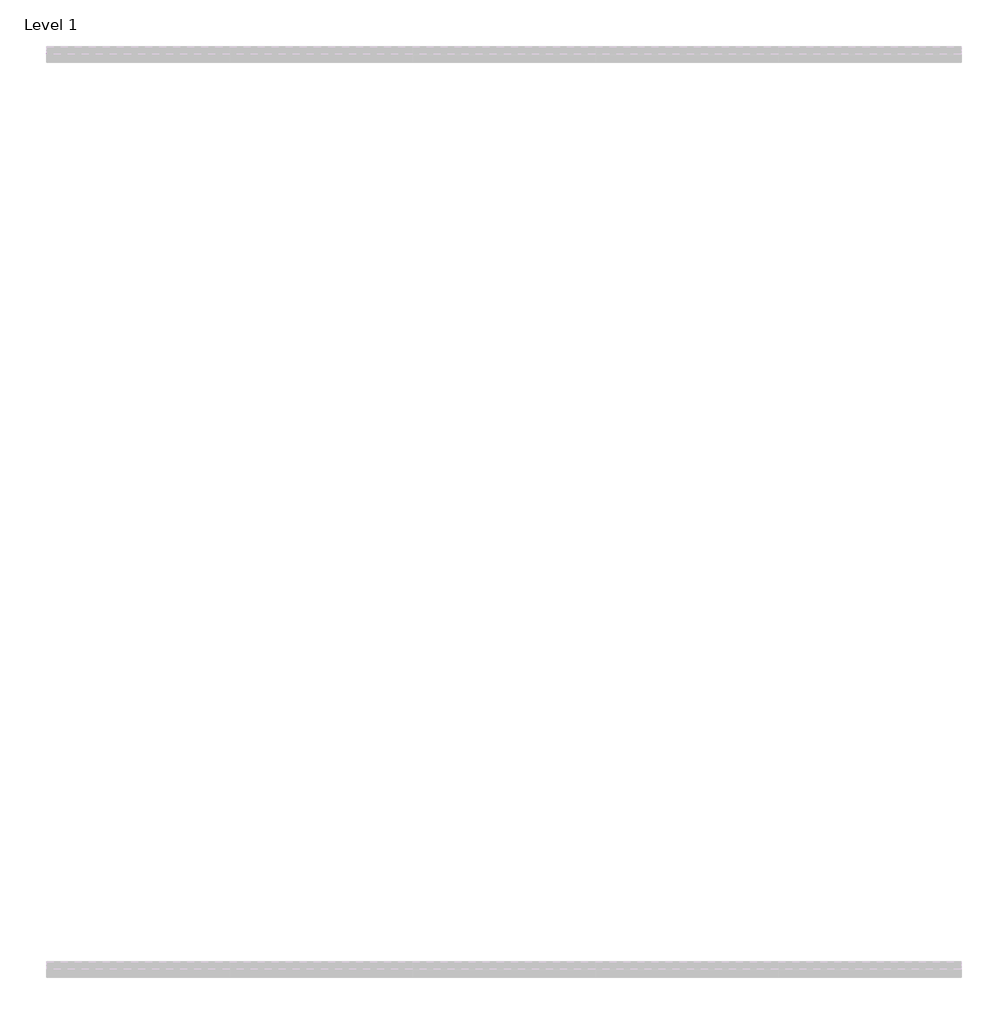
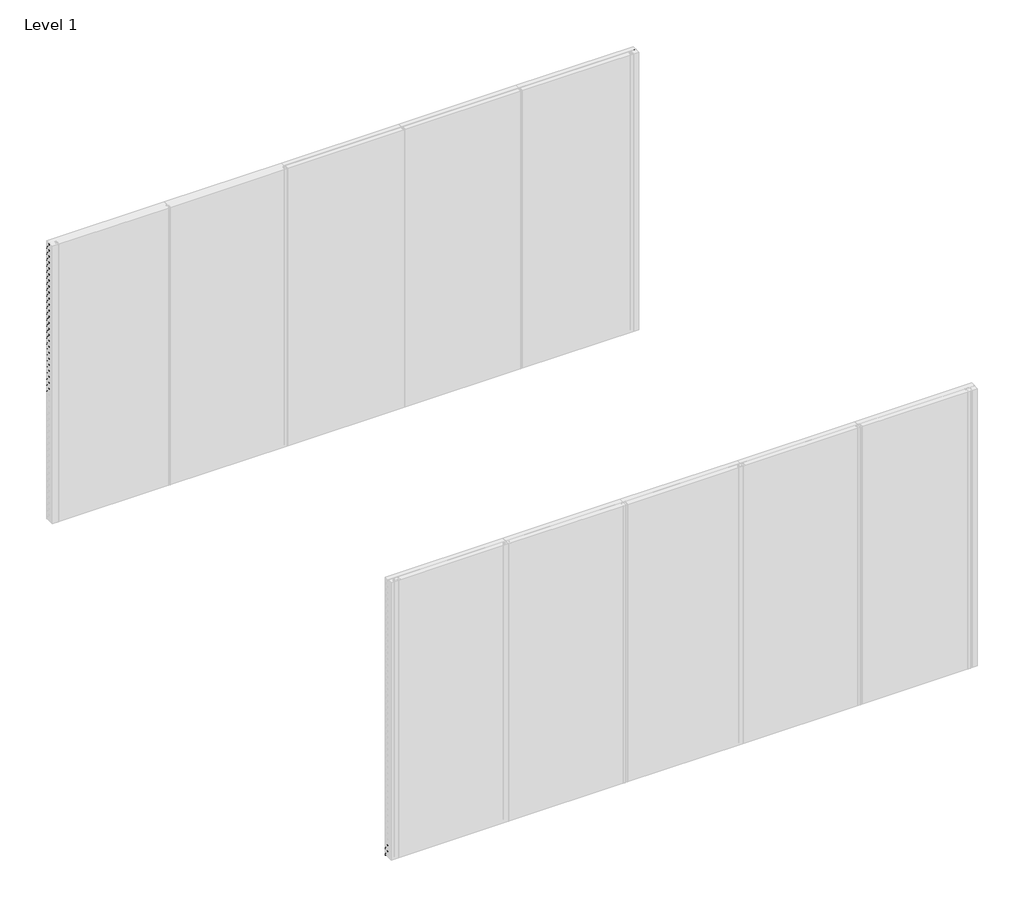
# One storey, part 3 of 7: 27 proxies.
"""IFC4 building model written with IfcOpenShell, lengths in millimetres."""

from ifc_helpers import new_model, si_unit, point, frame, frame_2d, origin, place, context, project, spatial, polyline, circle_curve, trimmed, segment, composite_curve, outline, extrude, element, save

model = new_model("IFC4")

# Units and contexts
model_context = context("Model", 3, world=origin())
ifc_project = project(units=[si_unit("LENGTHUNIT", "METRE", prefix="MILLI")], contexts=[model_context])

# Site, building, storey
site = spatial("IfcSite", under=ifc_project)
building = spatial("IfcBuilding", under=site)
storey = spatial("IfcBuildingStorey", under=building, Name="Level 1", Elevation=0.0)

# Proxies
placement = place(None, origin())
element("IfcBuildingElementProxy", 1, Name="Wall Sweeps", at=placement, inside=storey, context=model_context, shape_type="SweptSolid", body=[
    extrude(outline(composite_curve([segment(polyline([(-7992.5, 2976.0025181), (-7992.5, 2983.9509429), (-7994.5, 2983.9509429), (-7994.5, 2981.5421319), (-7996.0, 2981.5421319), (-7996.0, 2988.6499999), (-7994.5, 2988.6499999), (-7994.5, 2985.4509429), (-7992.5, 2985.4509429), (-7992.5, 2988.7999999), (-7992.1784609, 2990.0), (-7987.7000054, 2990.0), (-7987.7000054, 2986.8499997), (-7989.0835735, 2988.4999997), (-7991.0, 2988.4999997), (-7991.0, 2976.6085574), (-7946.0, 2930.0096933), (-7946.0, 2914.0), (-7947.5, 2916.6798), (-7947.5, 2919.1208496), (-7948.5, 2919.1208496), (-7948.5, 2920.6208496), (-7947.5, 2920.6208496), (-7947.5, 2929.4036539), (-7961.2088107, 2943.599543), (-7963.4375599, 2941.3707939), (-7962.8739549, 2940.8071888)]), True, "CONTINUOUS"), segment(trimmed(circle_curve(frame_2d((-7963.2275083, 2940.4536354)), 0.5), [point((-7962.8739549, 2940.8071888))], [point((-7963.3569178, 2939.9706725))], False, "CARTESIAN"), True, "CONTINUOUS"), segment(polyline([(-7963.3569178, 2939.9706725), (-7966.1977917, 2940.7318824), (-7962.250957, 2944.6787171), (-7992.5, 2976.0025181)]), True, "CONTINUOUS")], self_intersect=False)), frame((0.0, 0.0, 0.0), z_axis=(1.0, 0.0, 0.0), x_axis=(0.0, 1.0, 0.0)), (0.0, 0.0, 1.0), 6000.0),
])
element("IfcBuildingElementProxy", 2, Name="Wall Sweeps", at=placement, inside=storey, context=model_context, shape_type="SweptSolid", body=[
    extrude(outline(composite_curve([segment(polyline([(-7992.5, 2911.0025181), (-7992.5, 2918.9509429), (-7994.5, 2918.9509429), (-7994.5, 2916.5421319), (-7996.0, 2916.5421319), (-7996.0, 2923.6499999), (-7994.5, 2923.6499999), (-7994.5, 2920.4509429), (-7992.5, 2920.4509429), (-7992.5, 2923.7999999), (-7992.1784609, 2925.0), (-7987.7000054, 2925.0), (-7987.7000054, 2921.8499997), (-7989.0835735, 2923.4999997), (-7991.0, 2923.4999997), (-7991.0, 2911.6085574), (-7946.0, 2865.0096933), (-7946.0, 2849.0), (-7947.5, 2851.6798), (-7947.5, 2854.1208496), (-7948.5, 2854.1208496), (-7948.5, 2855.6208496), (-7947.5, 2855.6208496), (-7947.5, 2864.4036539), (-7961.2088107, 2878.599543), (-7963.4375599, 2876.3707939), (-7962.8739549, 2875.8071888)]), True, "CONTINUOUS"), segment(trimmed(circle_curve(frame_2d((-7963.2275083, 2875.4536354)), 0.5), [point((-7962.8739549, 2875.8071888))], [point((-7963.3569178, 2874.9706725))], False, "CARTESIAN"), True, "CONTINUOUS"), segment(polyline([(-7963.3569178, 2874.9706725), (-7966.1977917, 2875.7318824), (-7962.250957, 2879.6787171), (-7992.5, 2911.0025181)]), True, "CONTINUOUS")], self_intersect=False)), frame((0.0, 0.0, 0.0), z_axis=(1.0, 0.0, 0.0), x_axis=(0.0, 1.0, 0.0)), (0.0, 0.0, 1.0), 6000.0),
])
element("IfcBuildingElementProxy", 3, Name="Wall Sweeps", at=placement, inside=storey, context=model_context, shape_type="SweptSolid", body=[
    extrude(outline(composite_curve([segment(polyline([(-7992.5, 2846.0025181), (-7992.5, 2853.9509429), (-7994.5, 2853.9509429), (-7994.5, 2851.5421319), (-7996.0, 2851.5421319), (-7996.0, 2858.6499999), (-7994.5, 2858.6499999), (-7994.5, 2855.4509429), (-7992.5, 2855.4509429), (-7992.5, 2858.7999999), (-7992.1784609, 2860.0), (-7987.7000054, 2860.0), (-7987.7000054, 2856.8499997), (-7989.0835735, 2858.4999997), (-7991.0, 2858.4999997), (-7991.0, 2846.6085574), (-7946.0, 2800.0096933), (-7946.0, 2784.0), (-7947.5, 2786.6798), (-7947.5, 2789.1208496), (-7948.5, 2789.1208496), (-7948.5, 2790.6208496), (-7947.5, 2790.6208496), (-7947.5, 2799.4036539), (-7961.2088107, 2813.599543), (-7963.4375599, 2811.3707939), (-7962.8739549, 2810.8071888)]), True, "CONTINUOUS"), segment(trimmed(circle_curve(frame_2d((-7963.2275083, 2810.4536354)), 0.5), [point((-7962.8739549, 2810.8071888))], [point((-7963.3569178, 2809.9706725))], False, "CARTESIAN"), True, "CONTINUOUS"), segment(polyline([(-7963.3569178, 2809.9706725), (-7966.1977917, 2810.7318824), (-7962.250957, 2814.6787171), (-7992.5, 2846.0025181)]), True, "CONTINUOUS")], self_intersect=False)), frame((0.0, 0.0, 0.0), z_axis=(1.0, 0.0, 0.0), x_axis=(0.0, 1.0, 0.0)), (0.0, 0.0, 1.0), 6000.0),
])
element("IfcBuildingElementProxy", 4, Name="Wall Sweeps", at=placement, inside=storey, context=model_context, shape_type="SweptSolid", body=[
    extrude(outline(composite_curve([segment(polyline([(-7992.5, 2781.0025181), (-7992.5, 2788.9509429), (-7994.5, 2788.9509429), (-7994.5, 2786.5421319), (-7996.0, 2786.5421319), (-7996.0, 2793.6499999), (-7994.5, 2793.6499999), (-7994.5, 2790.4509429), (-7992.5, 2790.4509429), (-7992.5, 2793.7999999), (-7992.1784609, 2795.0), (-7987.7000054, 2795.0), (-7987.7000054, 2791.8499997), (-7989.0835735, 2793.4999997), (-7991.0, 2793.4999997), (-7991.0, 2781.6085574), (-7946.0, 2735.0096933), (-7946.0, 2719.0), (-7947.5, 2721.6798), (-7947.5, 2724.1208496), (-7948.5, 2724.1208496), (-7948.5, 2725.6208496), (-7947.5, 2725.6208496), (-7947.5, 2734.4036539), (-7961.2088107, 2748.599543), (-7963.4375599, 2746.3707939), (-7962.8739549, 2745.8071888)]), True, "CONTINUOUS"), segment(trimmed(circle_curve(frame_2d((-7963.2275083, 2745.4536354)), 0.5), [point((-7962.8739549, 2745.8071888))], [point((-7963.3569178, 2744.9706725))], False, "CARTESIAN"), True, "CONTINUOUS"), segment(polyline([(-7963.3569178, 2744.9706725), (-7966.1977917, 2745.7318824), (-7962.250957, 2749.6787171), (-7992.5, 2781.0025181)]), True, "CONTINUOUS")], self_intersect=False)), frame((0.0, 0.0, 0.0), z_axis=(1.0, 0.0, 0.0), x_axis=(0.0, 1.0, 0.0)), (0.0, 0.0, 1.0), 6000.0),
])
element("IfcBuildingElementProxy", 5, Name="Wall Sweeps", at=placement, inside=storey, context=model_context, shape_type="SweptSolid", body=[
    extrude(outline(composite_curve([segment(polyline([(-7992.5, 2716.0025181), (-7992.5, 2723.9509429), (-7994.5, 2723.9509429), (-7994.5, 2721.5421319), (-7996.0, 2721.5421319), (-7996.0, 2728.6499999), (-7994.5, 2728.6499999), (-7994.5, 2725.4509429), (-7992.5, 2725.4509429), (-7992.5, 2728.7999999), (-7992.1784609, 2730.0), (-7987.7000054, 2730.0), (-7987.7000054, 2726.8499997), (-7989.0835735, 2728.4999997), (-7991.0, 2728.4999997), (-7991.0, 2716.6085574), (-7946.0, 2670.0096933), (-7946.0, 2654.0), (-7947.5, 2656.6798), (-7947.5, 2659.1208496), (-7948.5, 2659.1208496), (-7948.5, 2660.6208496), (-7947.5, 2660.6208496), (-7947.5, 2669.4036539), (-7961.2088107, 2683.599543), (-7963.4375599, 2681.3707939), (-7962.8739549, 2680.8071888)]), True, "CONTINUOUS"), segment(trimmed(circle_curve(frame_2d((-7963.2275083, 2680.4536354)), 0.5), [point((-7962.8739549, 2680.8071888))], [point((-7963.3569178, 2679.9706725))], False, "CARTESIAN"), True, "CONTINUOUS"), segment(polyline([(-7963.3569178, 2679.9706725), (-7966.1977917, 2680.7318824), (-7962.250957, 2684.6787171), (-7992.5, 2716.0025181)]), True, "CONTINUOUS")], self_intersect=False)), frame((0.0, 0.0, 0.0), z_axis=(1.0, 0.0, 0.0), x_axis=(0.0, 1.0, 0.0)), (0.0, 0.0, 1.0), 6000.0),
])
element("IfcBuildingElementProxy", 6, Name="Wall Sweeps", at=placement, inside=storey, context=model_context, shape_type="SweptSolid", body=[
    extrude(outline(composite_curve([segment(polyline([(-7992.5, 2651.0025181), (-7992.5, 2658.9509429), (-7994.5, 2658.9509429), (-7994.5, 2656.5421319), (-7996.0, 2656.5421319), (-7996.0, 2663.6499999), (-7994.5, 2663.6499999), (-7994.5, 2660.4509429), (-7992.5, 2660.4509429), (-7992.5, 2663.7999999), (-7992.1784609, 2665.0), (-7987.7000054, 2665.0), (-7987.7000054, 2661.8499997), (-7989.0835735, 2663.4999997), (-7991.0, 2663.4999997), (-7991.0, 2651.6085574), (-7946.0, 2605.0096933), (-7946.0, 2589.0), (-7947.5, 2591.6798), (-7947.5, 2594.1208496), (-7948.5, 2594.1208496), (-7948.5, 2595.6208496), (-7947.5, 2595.6208496), (-7947.5, 2604.4036539), (-7961.2088107, 2618.599543), (-7963.4375599, 2616.3707939), (-7962.8739549, 2615.8071888)]), True, "CONTINUOUS"), segment(trimmed(circle_curve(frame_2d((-7963.2275083, 2615.4536354)), 0.5), [point((-7962.8739549, 2615.8071888))], [point((-7963.3569178, 2614.9706725))], False, "CARTESIAN"), True, "CONTINUOUS"), segment(polyline([(-7963.3569178, 2614.9706725), (-7966.1977917, 2615.7318824), (-7962.250957, 2619.6787171), (-7992.5, 2651.0025181)]), True, "CONTINUOUS")], self_intersect=False)), frame((0.0, 0.0, 0.0), z_axis=(1.0, 0.0, 0.0), x_axis=(0.0, 1.0, 0.0)), (0.0, 0.0, 1.0), 6000.0),
])
element("IfcBuildingElementProxy", 7, Name="Wall Sweeps", at=placement, inside=storey, context=model_context, shape_type="SweptSolid", body=[
    extrude(outline(composite_curve([segment(polyline([(-7992.5, 2586.0025181), (-7992.5, 2593.9509429), (-7994.5, 2593.9509429), (-7994.5, 2591.5421319), (-7996.0, 2591.5421319), (-7996.0, 2598.6499999), (-7994.5, 2598.6499999), (-7994.5, 2595.4509429), (-7992.5, 2595.4509429), (-7992.5, 2598.7999999), (-7992.1784609, 2600.0), (-7987.7000054, 2600.0), (-7987.7000054, 2596.8499997), (-7989.0835735, 2598.4999997), (-7991.0, 2598.4999997), (-7991.0, 2586.6085574), (-7946.0, 2540.0096933), (-7946.0, 2524.0), (-7947.5, 2526.6798), (-7947.5, 2529.1208496), (-7948.5, 2529.1208496), (-7948.5, 2530.6208496), (-7947.5, 2530.6208496), (-7947.5, 2539.4036539), (-7961.2088107, 2553.599543), (-7963.4375599, 2551.3707939), (-7962.8739549, 2550.8071888)]), True, "CONTINUOUS"), segment(trimmed(circle_curve(frame_2d((-7963.2275083, 2550.4536354)), 0.5), [point((-7962.8739549, 2550.8071888))], [point((-7963.3569178, 2549.9706725))], False, "CARTESIAN"), True, "CONTINUOUS"), segment(polyline([(-7963.3569178, 2549.9706725), (-7966.1977917, 2550.7318824), (-7962.250957, 2554.6787171), (-7992.5, 2586.0025181)]), True, "CONTINUOUS")], self_intersect=False)), frame((0.0, 0.0, 0.0), z_axis=(1.0, 0.0, 0.0), x_axis=(0.0, 1.0, 0.0)), (0.0, 0.0, 1.0), 6000.0),
])
element("IfcBuildingElementProxy", 8, Name="Wall Sweeps", at=placement, inside=storey, context=model_context, shape_type="SweptSolid", body=[
    extrude(outline(composite_curve([segment(polyline([(-7992.5, 2521.0025181), (-7992.5, 2528.9509429), (-7994.5, 2528.9509429), (-7994.5, 2526.5421319), (-7996.0, 2526.5421319), (-7996.0, 2533.6499999), (-7994.5, 2533.6499999), (-7994.5, 2530.4509429), (-7992.5, 2530.4509429), (-7992.5, 2533.7999999), (-7992.1784609, 2535.0), (-7987.7000054, 2535.0), (-7987.7000054, 2531.8499997), (-7989.0835735, 2533.4999997), (-7991.0, 2533.4999997), (-7991.0, 2521.6085574), (-7946.0, 2475.0096933), (-7946.0, 2459.0), (-7947.5, 2461.6798), (-7947.5, 2464.1208496), (-7948.5, 2464.1208496), (-7948.5, 2465.6208496), (-7947.5, 2465.6208496), (-7947.5, 2474.4036539), (-7961.2088107, 2488.599543), (-7963.4375599, 2486.3707939), (-7962.8739549, 2485.8071888)]), True, "CONTINUOUS"), segment(trimmed(circle_curve(frame_2d((-7963.2275083, 2485.4536354)), 0.5), [point((-7962.8739549, 2485.8071888))], [point((-7963.3569178, 2484.9706725))], False, "CARTESIAN"), True, "CONTINUOUS"), segment(polyline([(-7963.3569178, 2484.9706725), (-7966.1977917, 2485.7318824), (-7962.250957, 2489.6787171), (-7992.5, 2521.0025181)]), True, "CONTINUOUS")], self_intersect=False)), frame((0.0, 0.0, 0.0), z_axis=(1.0, 0.0, 0.0), x_axis=(0.0, 1.0, 0.0)), (0.0, 0.0, 1.0), 6000.0),
])
element("IfcBuildingElementProxy", 9, Name="Wall Sweeps", at=placement, inside=storey, context=model_context, shape_type="SweptSolid", body=[
    extrude(outline(composite_curve([segment(polyline([(-7992.5, 2456.0025181), (-7992.5, 2463.9509429), (-7994.5, 2463.9509429), (-7994.5, 2461.5421319), (-7996.0, 2461.5421319), (-7996.0, 2468.6499999), (-7994.5, 2468.6499999), (-7994.5, 2465.4509429), (-7992.5, 2465.4509429), (-7992.5, 2468.7999999), (-7992.1784609, 2470.0), (-7987.7000054, 2470.0), (-7987.7000054, 2466.8499997), (-7989.0835735, 2468.4999997), (-7991.0, 2468.4999997), (-7991.0, 2456.6085574), (-7946.0, 2410.0096933), (-7946.0, 2394.0), (-7947.5, 2396.6798), (-7947.5, 2399.1208496), (-7948.5, 2399.1208496), (-7948.5, 2400.6208496), (-7947.5, 2400.6208496), (-7947.5, 2409.4036539), (-7961.2088107, 2423.599543), (-7963.4375599, 2421.3707939), (-7962.8739549, 2420.8071888)]), True, "CONTINUOUS"), segment(trimmed(circle_curve(frame_2d((-7963.2275083, 2420.4536354)), 0.5), [point((-7962.8739549, 2420.8071888))], [point((-7963.3569178, 2419.9706725))], False, "CARTESIAN"), True, "CONTINUOUS"), segment(polyline([(-7963.3569178, 2419.9706725), (-7966.1977917, 2420.7318824), (-7962.250957, 2424.6787171), (-7992.5, 2456.0025181)]), True, "CONTINUOUS")], self_intersect=False)), frame((0.0, 0.0, 0.0), z_axis=(1.0, 0.0, 0.0), x_axis=(0.0, 1.0, 0.0)), (0.0, 0.0, 1.0), 6000.0),
])
element("IfcBuildingElementProxy", 10, Name="Wall Sweeps", at=placement, inside=storey, context=model_context, shape_type="SweptSolid", body=[
    extrude(outline(composite_curve([segment(polyline([(-7992.5, 2391.0025181), (-7992.5, 2398.9509429), (-7994.5, 2398.9509429), (-7994.5, 2396.5421319), (-7996.0, 2396.5421319), (-7996.0, 2403.6499999), (-7994.5, 2403.6499999), (-7994.5, 2400.4509429), (-7992.5, 2400.4509429), (-7992.5, 2403.7999999), (-7992.1784609, 2405.0), (-7987.7000054, 2405.0), (-7987.7000054, 2401.8499997), (-7989.0835735, 2403.4999997), (-7991.0, 2403.4999997), (-7991.0, 2391.6085574), (-7946.0, 2345.0096933), (-7946.0, 2329.0), (-7947.5, 2331.6798), (-7947.5, 2334.1208496), (-7948.5, 2334.1208496), (-7948.5, 2335.6208496), (-7947.5, 2335.6208496), (-7947.5, 2344.4036539), (-7961.2088107, 2358.599543), (-7963.4375599, 2356.3707939), (-7962.8739549, 2355.8071888)]), True, "CONTINUOUS"), segment(trimmed(circle_curve(frame_2d((-7963.2275083, 2355.4536354)), 0.5), [point((-7962.8739549, 2355.8071888))], [point((-7963.3569178, 2354.9706725))], False, "CARTESIAN"), True, "CONTINUOUS"), segment(polyline([(-7963.3569178, 2354.9706725), (-7966.1977917, 2355.7318824), (-7962.250957, 2359.6787171), (-7992.5, 2391.0025181)]), True, "CONTINUOUS")], self_intersect=False)), frame((0.0, 0.0, 0.0), z_axis=(1.0, 0.0, 0.0), x_axis=(0.0, 1.0, 0.0)), (0.0, 0.0, 1.0), 6000.0),
])
element("IfcBuildingElementProxy", 11, Name="Wall Sweeps", at=placement, inside=storey, context=model_context, shape_type="SweptSolid", body=[
    extrude(outline(composite_curve([segment(polyline([(-7992.5, 2326.0025181), (-7992.5, 2333.9509429), (-7994.5, 2333.9509429), (-7994.5, 2331.5421319), (-7996.0, 2331.5421319), (-7996.0, 2338.6499999), (-7994.5, 2338.6499999), (-7994.5, 2335.4509429), (-7992.5, 2335.4509429), (-7992.5, 2338.7999999), (-7992.1784609, 2340.0), (-7987.7000054, 2340.0), (-7987.7000054, 2336.8499997), (-7989.0835735, 2338.4999997), (-7991.0, 2338.4999997), (-7991.0, 2326.6085574), (-7946.0, 2280.0096933), (-7946.0, 2264.0), (-7947.5, 2266.6798), (-7947.5, 2269.1208496), (-7948.5, 2269.1208496), (-7948.5, 2270.6208496), (-7947.5, 2270.6208496), (-7947.5, 2279.4036539), (-7961.2088107, 2293.599543), (-7963.4375599, 2291.3707939), (-7962.8739549, 2290.8071888)]), True, "CONTINUOUS"), segment(trimmed(circle_curve(frame_2d((-7963.2275083, 2290.4536354)), 0.5), [point((-7962.8739549, 2290.8071888))], [point((-7963.3569178, 2289.9706725))], False, "CARTESIAN"), True, "CONTINUOUS"), segment(polyline([(-7963.3569178, 2289.9706725), (-7966.1977917, 2290.7318824), (-7962.250957, 2294.6787171), (-7992.5, 2326.0025181)]), True, "CONTINUOUS")], self_intersect=False)), frame((0.0, 0.0, 0.0), z_axis=(1.0, 0.0, 0.0), x_axis=(0.0, 1.0, 0.0)), (0.0, 0.0, 1.0), 6000.0),
])
element("IfcBuildingElementProxy", 12, Name="Wall Sweeps", at=placement, inside=storey, context=model_context, shape_type="SweptSolid", body=[
    extrude(outline(composite_curve([segment(polyline([(-7992.5, 2261.0025181), (-7992.5, 2268.9509429), (-7994.5, 2268.9509429), (-7994.5, 2266.5421319), (-7996.0, 2266.5421319), (-7996.0, 2273.6499999), (-7994.5, 2273.6499999), (-7994.5, 2270.4509429), (-7992.5, 2270.4509429), (-7992.5, 2273.7999999), (-7992.1784609, 2275.0), (-7987.7000054, 2275.0), (-7987.7000054, 2271.8499997), (-7989.0835735, 2273.4999997), (-7991.0, 2273.4999997), (-7991.0, 2261.6085574), (-7946.0, 2215.0096933), (-7946.0, 2199.0), (-7947.5, 2201.6798), (-7947.5, 2204.1208496), (-7948.5, 2204.1208496), (-7948.5, 2205.6208496), (-7947.5, 2205.6208496), (-7947.5, 2214.4036539), (-7961.2088107, 2228.599543), (-7963.4375599, 2226.3707939), (-7962.8739549, 2225.8071888)]), True, "CONTINUOUS"), segment(trimmed(circle_curve(frame_2d((-7963.2275083, 2225.4536354)), 0.5), [point((-7962.8739549, 2225.8071888))], [point((-7963.3569178, 2224.9706725))], False, "CARTESIAN"), True, "CONTINUOUS"), segment(polyline([(-7963.3569178, 2224.9706725), (-7966.1977917, 2225.7318824), (-7962.250957, 2229.6787171), (-7992.5, 2261.0025181)]), True, "CONTINUOUS")], self_intersect=False)), frame((0.0, 0.0, 0.0), z_axis=(1.0, 0.0, 0.0), x_axis=(0.0, 1.0, 0.0)), (0.0, 0.0, 1.0), 6000.0),
])
element("IfcBuildingElementProxy", 13, Name="Wall Sweeps", at=placement, inside=storey, context=model_context, shape_type="SweptSolid", body=[
    extrude(outline(composite_curve([segment(polyline([(-7992.5, 2196.0025181), (-7992.5, 2203.9509429), (-7994.5, 2203.9509429), (-7994.5, 2201.5421319), (-7996.0, 2201.5421319), (-7996.0, 2208.6499999), (-7994.5, 2208.6499999), (-7994.5, 2205.4509429), (-7992.5, 2205.4509429), (-7992.5, 2208.7999999), (-7992.1784609, 2210.0), (-7987.7000054, 2210.0), (-7987.7000054, 2206.8499997), (-7989.0835735, 2208.4999997), (-7991.0, 2208.4999997), (-7991.0, 2196.6085574), (-7946.0, 2150.0096933), (-7946.0, 2134.0), (-7947.5, 2136.6798), (-7947.5, 2139.1208496), (-7948.5, 2139.1208496), (-7948.5, 2140.6208496), (-7947.5, 2140.6208496), (-7947.5, 2149.4036539), (-7961.2088107, 2163.599543), (-7963.4375599, 2161.3707939), (-7962.8739549, 2160.8071888)]), True, "CONTINUOUS"), segment(trimmed(circle_curve(frame_2d((-7963.2275083, 2160.4536354)), 0.5), [point((-7962.8739549, 2160.8071888))], [point((-7963.3569178, 2159.9706725))], False, "CARTESIAN"), True, "CONTINUOUS"), segment(polyline([(-7963.3569178, 2159.9706725), (-7966.1977917, 2160.7318824), (-7962.250957, 2164.6787171), (-7992.5, 2196.0025181)]), True, "CONTINUOUS")], self_intersect=False)), frame((0.0, 0.0, 0.0), z_axis=(1.0, 0.0, 0.0), x_axis=(0.0, 1.0, 0.0)), (0.0, 0.0, 1.0), 6000.0),
])
element("IfcBuildingElementProxy", 14, Name="Wall Sweeps", at=placement, inside=storey, context=model_context, shape_type="SweptSolid", body=[
    extrude(outline(composite_curve([segment(polyline([(-7992.5, 2131.0025181), (-7992.5, 2138.9509429), (-7994.5, 2138.9509429), (-7994.5, 2136.5421319), (-7996.0, 2136.5421319), (-7996.0, 2143.6499999), (-7994.5, 2143.6499999), (-7994.5, 2140.4509429), (-7992.5, 2140.4509429), (-7992.5, 2143.7999999), (-7992.1784609, 2145.0), (-7987.7000054, 2145.0), (-7987.7000054, 2141.8499997), (-7989.0835735, 2143.4999997), (-7991.0, 2143.4999997), (-7991.0, 2131.6085574), (-7946.0, 2085.0096933), (-7946.0, 2069.0), (-7947.5, 2071.6798), (-7947.5, 2074.1208496), (-7948.5, 2074.1208496), (-7948.5, 2075.6208496), (-7947.5, 2075.6208496), (-7947.5, 2084.4036539), (-7961.2088107, 2098.599543), (-7963.4375599, 2096.3707939), (-7962.8739549, 2095.8071888)]), True, "CONTINUOUS"), segment(trimmed(circle_curve(frame_2d((-7963.2275083, 2095.4536354)), 0.5), [point((-7962.8739549, 2095.8071888))], [point((-7963.3569178, 2094.9706725))], False, "CARTESIAN"), True, "CONTINUOUS"), segment(polyline([(-7963.3569178, 2094.9706725), (-7966.1977917, 2095.7318824), (-7962.250957, 2099.6787171), (-7992.5, 2131.0025181)]), True, "CONTINUOUS")], self_intersect=False)), frame((0.0, 0.0, 0.0), z_axis=(1.0, 0.0, 0.0), x_axis=(0.0, 1.0, 0.0)), (0.0, 0.0, 1.0), 6000.0),
])
element("IfcBuildingElementProxy", 15, Name="Wall Sweeps", at=placement, inside=storey, context=model_context, shape_type="SweptSolid", body=[
    extrude(outline(composite_curve([segment(polyline([(-7992.5, 2066.0025181), (-7992.5, 2073.9509429), (-7994.5, 2073.9509429), (-7994.5, 2071.5421319), (-7996.0, 2071.5421319), (-7996.0, 2078.6499999), (-7994.5, 2078.6499999), (-7994.5, 2075.4509429), (-7992.5, 2075.4509429), (-7992.5, 2078.7999999), (-7992.1784609, 2080.0), (-7987.7000054, 2080.0), (-7987.7000054, 2076.8499997), (-7989.0835735, 2078.4999997), (-7991.0, 2078.4999997), (-7991.0, 2066.6085574), (-7946.0, 2020.0096933), (-7946.0, 2004.0), (-7947.5, 2006.6798), (-7947.5, 2009.1208496), (-7948.5, 2009.1208496), (-7948.5, 2010.6208496), (-7947.5, 2010.6208496), (-7947.5, 2019.4036539), (-7961.2088107, 2033.599543), (-7963.4375599, 2031.3707939), (-7962.8739549, 2030.8071888)]), True, "CONTINUOUS"), segment(trimmed(circle_curve(frame_2d((-7963.2275083, 2030.4536354)), 0.5), [point((-7962.8739549, 2030.8071888))], [point((-7963.3569178, 2029.9706725))], False, "CARTESIAN"), True, "CONTINUOUS"), segment(polyline([(-7963.3569178, 2029.9706725), (-7966.1977917, 2030.7318824), (-7962.250957, 2034.6787171), (-7992.5, 2066.0025181)]), True, "CONTINUOUS")], self_intersect=False)), frame((0.0, 0.0, 0.0), z_axis=(1.0, 0.0, 0.0), x_axis=(0.0, 1.0, 0.0)), (0.0, 0.0, 1.0), 6000.0),
])
element("IfcBuildingElementProxy", 16, Name="Wall Sweeps", at=placement, inside=storey, context=model_context, shape_type="SweptSolid", body=[
    extrude(outline(composite_curve([segment(polyline([(-7992.5, 2001.0025181), (-7992.5, 2008.9509429), (-7994.5, 2008.9509429), (-7994.5, 2006.5421319), (-7996.0, 2006.5421319), (-7996.0, 2013.6499999), (-7994.5, 2013.6499999), (-7994.5, 2010.4509429), (-7992.5, 2010.4509429), (-7992.5, 2013.7999999), (-7992.1784609, 2015.0), (-7987.7000054, 2015.0), (-7987.7000054, 2011.8499997), (-7989.0835735, 2013.4999997), (-7991.0, 2013.4999997), (-7991.0, 2001.6085574), (-7946.0, 1955.0096933), (-7946.0, 1939.0), (-7947.5, 1941.6798), (-7947.5, 1944.1208496), (-7948.5, 1944.1208496), (-7948.5, 1945.6208496), (-7947.5, 1945.6208496), (-7947.5, 1954.4036539), (-7961.2088107, 1968.599543), (-7963.4375599, 1966.3707939), (-7962.8739549, 1965.8071888)]), True, "CONTINUOUS"), segment(trimmed(circle_curve(frame_2d((-7963.2275083, 1965.4536354)), 0.5), [point((-7962.8739549, 1965.8071888))], [point((-7963.3569178, 1964.9706725))], False, "CARTESIAN"), True, "CONTINUOUS"), segment(polyline([(-7963.3569178, 1964.9706725), (-7966.1977917, 1965.7318824), (-7962.250957, 1969.6787171), (-7992.5, 2001.0025181)]), True, "CONTINUOUS")], self_intersect=False)), frame((0.0, 0.0, 0.0), z_axis=(1.0, 0.0, 0.0), x_axis=(0.0, 1.0, 0.0)), (0.0, 0.0, 1.0), 6000.0),
])
element("IfcBuildingElementProxy", 17, Name="Wall Sweeps", at=placement, inside=storey, context=model_context, shape_type="SweptSolid", body=[
    extrude(outline(composite_curve([segment(polyline([(-7992.5, 1936.0025181), (-7992.5, 1943.9509429), (-7994.5, 1943.9509429), (-7994.5, 1941.5421319), (-7996.0, 1941.5421319), (-7996.0, 1948.6499999), (-7994.5, 1948.6499999), (-7994.5, 1945.4509429), (-7992.5, 1945.4509429), (-7992.5, 1948.7999999), (-7992.1784609, 1950.0), (-7987.7000054, 1950.0), (-7987.7000054, 1946.8499997), (-7989.0835735, 1948.4999997), (-7991.0, 1948.4999997), (-7991.0, 1936.6085574), (-7946.0, 1890.0096933), (-7946.0, 1874.0), (-7947.5, 1876.6798), (-7947.5, 1879.1208496), (-7948.5, 1879.1208496), (-7948.5, 1880.6208496), (-7947.5, 1880.6208496), (-7947.5, 1889.4036539), (-7961.2088107, 1903.599543), (-7963.4375599, 1901.3707939), (-7962.8739549, 1900.8071888)]), True, "CONTINUOUS"), segment(trimmed(circle_curve(frame_2d((-7963.2275083, 1900.4536354)), 0.5), [point((-7962.8739549, 1900.8071888))], [point((-7963.3569178, 1899.9706725))], False, "CARTESIAN"), True, "CONTINUOUS"), segment(polyline([(-7963.3569178, 1899.9706725), (-7966.1977917, 1900.7318824), (-7962.250957, 1904.6787171), (-7992.5, 1936.0025181)]), True, "CONTINUOUS")], self_intersect=False)), frame((0.0, 0.0, 0.0), z_axis=(1.0, 0.0, 0.0), x_axis=(0.0, 1.0, 0.0)), (0.0, 0.0, 1.0), 6000.0),
])
element("IfcBuildingElementProxy", 18, Name="Wall Sweeps", at=placement, inside=storey, context=model_context, shape_type="SweptSolid", body=[
    extrude(outline(composite_curve([segment(polyline([(-7992.5, 1871.0025181), (-7992.5, 1878.9509429), (-7994.5, 1878.9509429), (-7994.5, 1876.5421319), (-7996.0, 1876.5421319), (-7996.0, 1883.6499999), (-7994.5, 1883.6499999), (-7994.5, 1880.4509429), (-7992.5, 1880.4509429), (-7992.5, 1883.7999999), (-7992.1784609, 1885.0), (-7987.7000054, 1885.0), (-7987.7000054, 1881.8499997), (-7989.0835735, 1883.4999997), (-7991.0, 1883.4999997), (-7991.0, 1871.6085574), (-7946.0, 1825.0096933), (-7946.0, 1809.0), (-7947.5, 1811.6798), (-7947.5, 1814.1208496), (-7948.5, 1814.1208496), (-7948.5, 1815.6208496), (-7947.5, 1815.6208496), (-7947.5, 1824.4036539), (-7961.2088107, 1838.599543), (-7963.4375599, 1836.3707939), (-7962.8739549, 1835.8071888)]), True, "CONTINUOUS"), segment(trimmed(circle_curve(frame_2d((-7963.2275083, 1835.4536354)), 0.5), [point((-7962.8739549, 1835.8071888))], [point((-7963.3569178, 1834.9706725))], False, "CARTESIAN"), True, "CONTINUOUS"), segment(polyline([(-7963.3569178, 1834.9706725), (-7966.1977917, 1835.7318824), (-7962.250957, 1839.6787171), (-7992.5, 1871.0025181)]), True, "CONTINUOUS")], self_intersect=False)), frame((0.0, 0.0, 0.0), z_axis=(1.0, 0.0, 0.0), x_axis=(0.0, 1.0, 0.0)), (0.0, 0.0, 1.0), 6000.0),
])
element("IfcBuildingElementProxy", 19, Name="Wall Sweeps", at=placement, inside=storey, context=model_context, shape_type="SweptSolid", body=[
    extrude(outline(composite_curve([segment(polyline([(-7992.5, 1806.0025181), (-7992.5, 1813.9509429), (-7994.5, 1813.9509429), (-7994.5, 1811.5421319), (-7996.0, 1811.5421319), (-7996.0, 1818.6499999), (-7994.5, 1818.6499999), (-7994.5, 1815.4509429), (-7992.5, 1815.4509429), (-7992.5, 1818.7999999), (-7992.1784609, 1820.0), (-7987.7000054, 1820.0), (-7987.7000054, 1816.8499997), (-7989.0835735, 1818.4999997), (-7991.0, 1818.4999997), (-7991.0, 1806.6085574), (-7946.0, 1760.0096933), (-7946.0, 1744.0), (-7947.5, 1746.6798), (-7947.5, 1749.1208496), (-7948.5, 1749.1208496), (-7948.5, 1750.6208496), (-7947.5, 1750.6208496), (-7947.5, 1759.4036539), (-7961.2088107, 1773.599543), (-7963.4375599, 1771.3707939), (-7962.8739549, 1770.8071888)]), True, "CONTINUOUS"), segment(trimmed(circle_curve(frame_2d((-7963.2275083, 1770.4536354)), 0.5), [point((-7962.8739549, 1770.8071888))], [point((-7963.3569178, 1769.9706725))], False, "CARTESIAN"), True, "CONTINUOUS"), segment(polyline([(-7963.3569178, 1769.9706725), (-7966.1977917, 1770.7318824), (-7962.250957, 1774.6787171), (-7992.5, 1806.0025181)]), True, "CONTINUOUS")], self_intersect=False)), frame((0.0, 0.0, 0.0), z_axis=(1.0, 0.0, 0.0), x_axis=(0.0, 1.0, 0.0)), (0.0, 0.0, 1.0), 6000.0),
])
element("IfcBuildingElementProxy", 20, Name="Wall Sweeps", at=placement, inside=storey, context=model_context, shape_type="SweptSolid", body=[
    extrude(outline(composite_curve([segment(polyline([(-7992.5, 1741.0025181), (-7992.5, 1748.9509429), (-7994.5, 1748.9509429), (-7994.5, 1746.5421319), (-7996.0, 1746.5421319), (-7996.0, 1753.6499999), (-7994.5, 1753.6499999), (-7994.5, 1750.4509429), (-7992.5, 1750.4509429), (-7992.5, 1753.7999999), (-7992.1784609, 1755.0), (-7987.7000054, 1755.0), (-7987.7000054, 1751.8499997), (-7989.0835735, 1753.4999997), (-7991.0, 1753.4999997), (-7991.0, 1741.6085574), (-7946.0, 1695.0096933), (-7946.0, 1679.0), (-7947.5, 1681.6798), (-7947.5, 1684.1208496), (-7948.5, 1684.1208496), (-7948.5, 1685.6208496), (-7947.5, 1685.6208496), (-7947.5, 1694.4036539), (-7961.2088107, 1708.599543), (-7963.4375599, 1706.3707939), (-7962.8739549, 1705.8071888)]), True, "CONTINUOUS"), segment(trimmed(circle_curve(frame_2d((-7963.2275083, 1705.4536354)), 0.5), [point((-7962.8739549, 1705.8071888))], [point((-7963.3569178, 1704.9706725))], False, "CARTESIAN"), True, "CONTINUOUS"), segment(polyline([(-7963.3569178, 1704.9706725), (-7966.1977917, 1705.7318824), (-7962.250957, 1709.6787171), (-7992.5, 1741.0025181)]), True, "CONTINUOUS")], self_intersect=False)), frame((0.0, 0.0, 0.0), z_axis=(1.0, 0.0, 0.0), x_axis=(0.0, 1.0, 0.0)), (0.0, 0.0, 1.0), 6000.0),
])
element("IfcBuildingElementProxy", 21, Name="Wall Sweeps", at=placement, inside=storey, context=model_context, shape_type="SweptSolid", body=[
    extrude(outline(composite_curve([segment(polyline([(-7992.5, 1676.0025181), (-7992.5, 1683.9509429), (-7994.5, 1683.9509429), (-7994.5, 1681.5421319), (-7996.0, 1681.5421319), (-7996.0, 1688.6499999), (-7994.5, 1688.6499999), (-7994.5, 1685.4509429), (-7992.5, 1685.4509429), (-7992.5, 1688.7999999), (-7992.1784609, 1690.0), (-7987.7000054, 1690.0), (-7987.7000054, 1686.8499997), (-7989.0835735, 1688.4999997), (-7991.0, 1688.4999997), (-7991.0, 1676.6085574), (-7946.0, 1630.0096933), (-7946.0, 1614.0), (-7947.5, 1616.6798), (-7947.5, 1619.1208496), (-7948.5, 1619.1208496), (-7948.5, 1620.6208496), (-7947.5, 1620.6208496), (-7947.5, 1629.4036539), (-7961.2088107, 1643.599543), (-7963.4375599, 1641.3707939), (-7962.8739549, 1640.8071888)]), True, "CONTINUOUS"), segment(trimmed(circle_curve(frame_2d((-7963.2275083, 1640.4536354)), 0.5), [point((-7962.8739549, 1640.8071888))], [point((-7963.3569178, 1639.9706725))], False, "CARTESIAN"), True, "CONTINUOUS"), segment(polyline([(-7963.3569178, 1639.9706725), (-7966.1977917, 1640.7318824), (-7962.250957, 1644.6787171), (-7992.5, 1676.0025181)]), True, "CONTINUOUS")], self_intersect=False)), frame((0.0, 0.0, 0.0), z_axis=(1.0, 0.0, 0.0), x_axis=(0.0, 1.0, 0.0)), (0.0, 0.0, 1.0), 6000.0),
])
element("IfcBuildingElementProxy", 22, Name="Wall Sweeps", at=placement, inside=storey, context=model_context, shape_type="SweptSolid", body=[
    extrude(outline(composite_curve([segment(polyline([(-7992.5, 1611.0025181), (-7992.5, 1618.9509429), (-7994.5, 1618.9509429), (-7994.5, 1616.5421319), (-7996.0, 1616.5421319), (-7996.0, 1623.6499999), (-7994.5, 1623.6499999), (-7994.5, 1620.4509429), (-7992.5, 1620.4509429), (-7992.5, 1623.7999999), (-7992.1784609, 1625.0), (-7987.7000054, 1625.0), (-7987.7000054, 1621.8499997), (-7989.0835735, 1623.4999997), (-7991.0, 1623.4999997), (-7991.0, 1611.6085574), (-7946.0, 1565.0096933), (-7946.0, 1549.0), (-7947.5, 1551.6798), (-7947.5, 1554.1208496), (-7948.5, 1554.1208496), (-7948.5, 1555.6208496), (-7947.5, 1555.6208496), (-7947.5, 1564.4036539), (-7961.2088107, 1578.599543), (-7963.4375599, 1576.3707939), (-7962.8739549, 1575.8071888)]), True, "CONTINUOUS"), segment(trimmed(circle_curve(frame_2d((-7963.2275083, 1575.4536354)), 0.5), [point((-7962.8739549, 1575.8071888))], [point((-7963.3569178, 1574.9706725))], False, "CARTESIAN"), True, "CONTINUOUS"), segment(polyline([(-7963.3569178, 1574.9706725), (-7966.1977917, 1575.7318824), (-7962.250957, 1579.6787171), (-7992.5, 1611.0025181)]), True, "CONTINUOUS")], self_intersect=False)), frame((0.0, 0.0, 0.0), z_axis=(1.0, 0.0, 0.0), x_axis=(0.0, 1.0, 0.0)), (0.0, 0.0, 1.0), 6000.0),
])
element("IfcBuildingElementProxy", 23, Name="Wall Sweeps", at=placement, inside=storey, context=model_context, shape_type="SweptSolid", body=[
    extrude(outline(composite_curve([segment(polyline([(-7992.5, 1546.0025181), (-7992.5, 1553.9509429), (-7994.5, 1553.9509429), (-7994.5, 1551.5421319), (-7996.0, 1551.5421319), (-7996.0, 1558.6499999), (-7994.5, 1558.6499999), (-7994.5, 1555.4509429), (-7992.5, 1555.4509429), (-7992.5, 1558.7999999), (-7992.1784609, 1560.0), (-7987.7000054, 1560.0), (-7987.7000054, 1556.8499997), (-7989.0835735, 1558.4999997), (-7991.0, 1558.4999997), (-7991.0, 1546.6085574), (-7946.0, 1500.0096933), (-7946.0, 1484.0), (-7947.5, 1486.6798), (-7947.5, 1489.1208496), (-7948.5, 1489.1208496), (-7948.5, 1490.6208496), (-7947.5, 1490.6208496), (-7947.5, 1499.4036539), (-7961.2088107, 1513.599543), (-7963.4375599, 1511.3707939), (-7962.8739549, 1510.8071888)]), True, "CONTINUOUS"), segment(trimmed(circle_curve(frame_2d((-7963.2275083, 1510.4536354)), 0.5), [point((-7962.8739549, 1510.8071888))], [point((-7963.3569178, 1509.9706725))], False, "CARTESIAN"), True, "CONTINUOUS"), segment(polyline([(-7963.3569178, 1509.9706725), (-7966.1977917, 1510.7318824), (-7962.250957, 1514.6787171), (-7992.5, 1546.0025181)]), True, "CONTINUOUS")], self_intersect=False)), frame((0.0, 0.0, 0.0), z_axis=(1.0, 0.0, 0.0), x_axis=(0.0, 1.0, 0.0)), (0.0, 0.0, 1.0), 6000.0),
])
element("IfcBuildingElementProxy", 24, Name="Wall Sweeps", at=placement, inside=storey, context=model_context, shape_type="SweptSolid", body=[
    extrude(outline(composite_curve([segment(polyline([(-7992.5, 1481.0025181), (-7992.5, 1488.9509429), (-7994.5, 1488.9509429), (-7994.5, 1486.5421319), (-7996.0, 1486.5421319), (-7996.0, 1493.6499999), (-7994.5, 1493.6499999), (-7994.5, 1490.4509429), (-7992.5, 1490.4509429), (-7992.5, 1493.7999999), (-7992.1784609, 1495.0), (-7987.7000054, 1495.0), (-7987.7000054, 1491.8499997), (-7989.0835735, 1493.4999997), (-7991.0, 1493.4999997), (-7991.0, 1481.6085574), (-7946.0, 1435.0096933), (-7946.0, 1419.0), (-7947.5, 1421.6798), (-7947.5, 1424.1208496), (-7948.5, 1424.1208496), (-7948.5, 1425.6208496), (-7947.5, 1425.6208496), (-7947.5, 1434.4036539), (-7961.2088107, 1448.599543), (-7963.4375599, 1446.3707939), (-7962.8739549, 1445.8071888)]), True, "CONTINUOUS"), segment(trimmed(circle_curve(frame_2d((-7963.2275083, 1445.4536354)), 0.5), [point((-7962.8739549, 1445.8071888))], [point((-7963.3569178, 1444.9706725))], False, "CARTESIAN"), True, "CONTINUOUS"), segment(polyline([(-7963.3569178, 1444.9706725), (-7966.1977917, 1445.7318824), (-7962.250957, 1449.6787171), (-7992.5, 1481.0025181)]), True, "CONTINUOUS")], self_intersect=False)), frame((0.0, 0.0, 0.0), z_axis=(1.0, 0.0, 0.0), x_axis=(0.0, 1.0, 0.0)), (0.0, 0.0, 1.0), 6000.0),
])
element("IfcBuildingElementProxy", 25, Name="Wall Sweeps", at=placement, inside=storey, context=model_context, shape_type="SweptSolid", body=[
    extrude(outline(composite_curve([segment(polyline([(-7992.5, 1416.0025181), (-7992.5, 1423.9509429), (-7994.5, 1423.9509429), (-7994.5, 1421.5421319), (-7996.0, 1421.5421319), (-7996.0, 1428.6499999), (-7994.5, 1428.6499999), (-7994.5, 1425.4509429), (-7992.5, 1425.4509429), (-7992.5, 1428.7999999), (-7992.1784609, 1430.0), (-7987.7000054, 1430.0), (-7987.7000054, 1426.8499997), (-7989.0835735, 1428.4999997), (-7991.0, 1428.4999997), (-7991.0, 1416.6085574), (-7946.0, 1370.0096933), (-7946.0, 1354.0), (-7947.5, 1356.6798), (-7947.5, 1359.1208496), (-7948.5, 1359.1208496), (-7948.5, 1360.6208496), (-7947.5, 1360.6208496), (-7947.5, 1369.4036539), (-7961.2088107, 1383.599543), (-7963.4375599, 1381.3707939), (-7962.8739549, 1380.8071888)]), True, "CONTINUOUS"), segment(trimmed(circle_curve(frame_2d((-7963.2275083, 1380.4536354)), 0.5), [point((-7962.8739549, 1380.8071888))], [point((-7963.3569178, 1379.9706725))], False, "CARTESIAN"), True, "CONTINUOUS"), segment(polyline([(-7963.3569178, 1379.9706725), (-7966.1977917, 1380.7318824), (-7962.250957, 1384.6787171), (-7992.5, 1416.0025181)]), True, "CONTINUOUS")], self_intersect=False)), frame((0.0, 0.0, 0.0), z_axis=(1.0, 0.0, 0.0), x_axis=(0.0, 1.0, 0.0)), (0.0, 0.0, 1.0), 6000.0),
])
element("IfcBuildingElementProxy", 26, Name="Wall Sweeps", at=placement, inside=storey, context=model_context, shape_type="SweptSolid", body=[
    extrude(outline(composite_curve([segment(polyline([(-13992.5, 116.0025181), (-13992.5, 123.9509429), (-13994.5, 123.9509429), (-13994.5, 121.5421319), (-13996.0, 121.5421319), (-13996.0, 128.6499999), (-13994.5, 128.6499999), (-13994.5, 125.4509429), (-13992.5, 125.4509429), (-13992.5, 128.7999999), (-13992.1784609, 130.0), (-13987.7000054, 130.0), (-13987.7000054, 126.8499997), (-13989.0835735, 128.4999997), (-13991.0, 128.4999997), (-13991.0, 116.6085574), (-13946.0, 70.0096933), (-13946.0, 54.0), (-13947.5, 56.6798), (-13947.5, 59.1208496), (-13948.5, 59.1208496), (-13948.5, 60.6208496), (-13947.5, 60.6208496), (-13947.5, 69.4036539), (-13961.2088107, 83.599543), (-13963.4375599, 81.3707939), (-13962.8739549, 80.8071888)]), True, "CONTINUOUS"), segment(trimmed(circle_curve(frame_2d((-13963.2275083, 80.4536354)), 0.5), [point((-13962.8739549, 80.8071888))], [point((-13963.3569178, 79.9706725))], False, "CARTESIAN"), True, "CONTINUOUS"), segment(polyline([(-13963.3569178, 79.9706725), (-13966.1977917, 80.7318824), (-13962.250957, 84.6787171), (-13992.5, 116.0025181)]), True, "CONTINUOUS")], self_intersect=False)), frame((0.0, 0.0, 0.0), z_axis=(1.0, 0.0, 0.0), x_axis=(0.0, 1.0, 0.0)), (0.0, 0.0, 1.0), 6000.0),
])
element("IfcBuildingElementProxy", 27, Name="Wall Sweeps", at=placement, inside=storey, context=model_context, shape_type="SweptSolid", body=[
    extrude(outline(composite_curve([segment(polyline([(-13992.5, 51.0025181), (-13992.5, 58.9509429), (-13994.5, 58.9509429), (-13994.5, 56.5421319), (-13996.0, 56.5421319), (-13996.0, 63.6499999), (-13994.5, 63.6499999), (-13994.5, 60.4509429), (-13992.5, 60.4509429), (-13992.5, 63.7999999), (-13992.1784609, 65.0), (-13987.7000054, 65.0), (-13987.7000054, 61.8499997), (-13989.0835735, 63.4999997), (-13991.0, 63.4999997), (-13991.0, 51.6085574), (-13946.0, 5.0096933), (-13946.0, -11.0), (-13947.5, -8.3202), (-13947.5, -5.8791504), (-13948.5, -5.8791504), (-13948.5, -4.3791504), (-13947.5, -4.3791504), (-13947.5, 4.4036539), (-13961.2088107, 18.599543), (-13963.4375599, 16.3707939), (-13962.8739549, 15.8071888)]), True, "CONTINUOUS"), segment(trimmed(circle_curve(frame_2d((-13963.2275083, 15.4536354)), 0.5), [point((-13962.8739549, 15.8071888))], [point((-13963.3569178, 14.9706725))], False, "CARTESIAN"), True, "CONTINUOUS"), segment(polyline([(-13963.3569178, 14.9706725), (-13966.1977917, 15.7318824), (-13962.250957, 19.6787171), (-13992.5, 51.0025181)]), True, "CONTINUOUS")], self_intersect=False)), frame((0.0, 0.0, 0.0), z_axis=(1.0, 0.0, 0.0), x_axis=(0.0, 1.0, 0.0)), (0.0, 0.0, 1.0), 6000.0),
])

save(model, "model.ifc")
